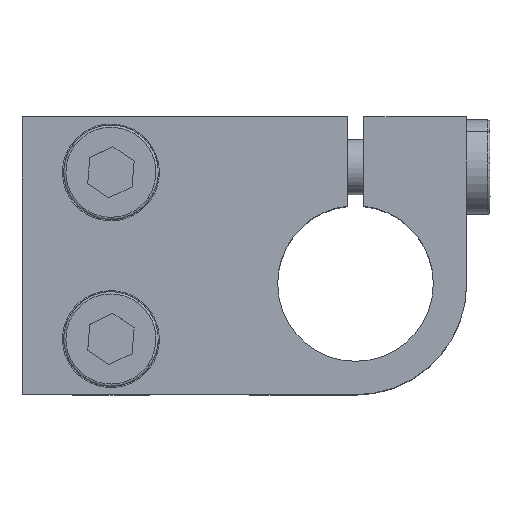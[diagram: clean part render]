
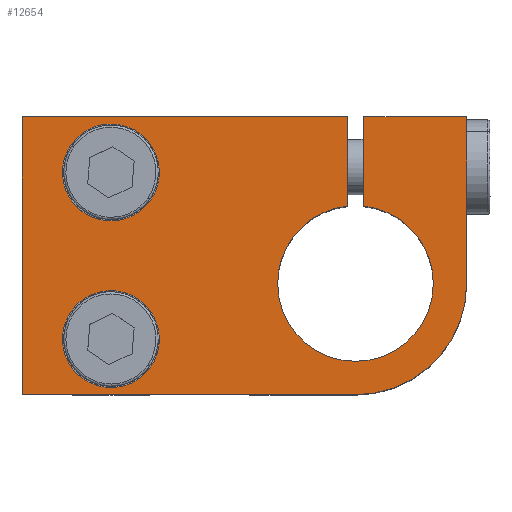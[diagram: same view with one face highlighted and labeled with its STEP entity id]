
A CAD part, top view. The second image highlights one B-rep face of the part: STEP entity #12654.
In plain terms, the highlighted planar face has unit normal (0, 0, 1).
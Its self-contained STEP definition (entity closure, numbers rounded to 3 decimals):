
#351 = LINE ( 'NONE', #10009, #10175 ) ;
#492 = EDGE_CURVE ( 'NONE', #919, #34510, #20712, .T. ) ;
#646 = CARTESIAN_POINT ( 'NONE',  ( -77.579, -3.016, 46.994 ) ) ;
#682 = AXIS2_PLACEMENT_3D ( 'NONE', #13100, #18945, #10601 ) ;
#744 = VERTEX_POINT ( 'NONE', #34767 ) ;
#919 = VERTEX_POINT ( 'NONE', #14185 ) ;
#1052 = VERTEX_POINT ( 'NONE', #32638 ) ;
#1190 = CIRCLE ( 'NONE', #24034, 7. ) ;
#1258 = ORIENTED_EDGE ( 'NONE', *, *, #16821, .T. ) ;
#1703 = CARTESIAN_POINT ( 'NONE',  ( -97.579, 9.484, 46.994 ) ) ;
#1798 = EDGE_CURVE ( 'NONE', #6819, #744, #16818, .T. ) ;
#1969 = CARTESIAN_POINT ( 'NONE',  ( -60.579, 6.984, 46.994 ) ) ;
#2868 = DIRECTION ( 'NONE',  ( 0., 0., 1. ) ) ;
#2966 = ORIENTED_EDGE ( 'NONE', *, *, #33648, .T. ) ;
#3001 = CARTESIAN_POINT ( 'NONE',  ( -67.579, 6.984, 46.994 ) ) ;
#3142 = DIRECTION ( 'NONE',  ( 1., 0., 0. ) ) ;
#4190 = ORIENTED_EDGE ( 'NONE', *, *, #15741, .T. ) ;
#5249 = VERTEX_POINT ( 'NONE', #28154 ) ;
#5475 = DIRECTION ( 'NONE',  ( -1., 0., 0. ) ) ;
#5556 = ORIENTED_EDGE ( 'NONE', *, *, #29525, .F. ) ;
#6819 = VERTEX_POINT ( 'NONE', #24467 ) ;
#7014 = DIRECTION ( 'NONE',  ( 0., 1., 0. ) ) ;
#7042 = VECTOR ( 'NONE', #3142, 1000. ) ;
#7481 = EDGE_CURVE ( 'NONE', #34938, #24320, #14147, .T. ) ;
#7632 = FACE_BOUND ( 'NONE', #17199, .T. ) ;
#8364 = CARTESIAN_POINT ( 'NONE',  ( -67.579, -3.016, 46.994 ) ) ;
#9433 = CARTESIAN_POINT ( 'NONE',  ( -86.979, 16.984, 46.994 ) ) ;
#9928 = DIRECTION ( 'NONE',  ( -1., 0., 0. ) ) ;
#9937 = VERTEX_POINT ( 'NONE', #1969 ) ;
#10009 = CARTESIAN_POINT ( 'NONE',  ( -68.329, 9.484, 46.994 ) ) ;
#10016 = DIRECTION ( 'NONE',  ( 0., 1., 0. ) ) ;
#10077 = DIRECTION ( 'NONE',  ( -1., 0., 0. ) ) ;
#10096 = CARTESIAN_POINT ( 'NONE',  ( -92.179, 16.984, 46.994 ) ) ;
#10175 = VECTOR ( 'NONE', #7014, 1000. ) ;
#10226 = EDGE_CURVE ( 'NONE', #34607, #16240, #28595, .T. ) ;
#10581 = AXIS2_PLACEMENT_3D ( 'NONE', #25633, #25153, #14542 ) ;
#10601 = DIRECTION ( 'NONE',  ( -1., 0., 0. ) ) ;
#11115 = EDGE_CURVE ( 'NONE', #19821, #31608, #351, .T. ) ;
#11277 = VECTOR ( 'NONE', #10016, 1000. ) ;
#11416 = CIRCLE ( 'NONE', #19862, 7. ) ;
#11725 = CARTESIAN_POINT ( 'NONE',  ( -66.829, 13.944, 46.994 ) ) ;
#12313 = ORIENTED_EDGE ( 'NONE', *, *, #31725, .T. ) ;
#12537 = EDGE_CURVE ( 'NONE', #34166, #20971, #29739, .T. ) ;
#12654 = ADVANCED_FACE ( 'NONE', ( #29710, #7632, #33999 ), #22263, .T. ) ;
#12780 = EDGE_CURVE ( 'NONE', #24320, #9937, #1190, .T. ) ;
#12966 = CARTESIAN_POINT ( 'NONE',  ( -77.579, 21.984, 46.994 ) ) ;
#13051 = AXIS2_PLACEMENT_3D ( 'NONE', #16316, #2868, #24551 ) ;
#13070 = CIRCLE ( 'NONE', #17065, 10. ) ;
#13100 = CARTESIAN_POINT ( 'NONE',  ( -89.579, 1.984, 46.994 ) ) ;
#13367 = LINE ( 'NONE', #1703, #25768 ) ;
#13713 = EDGE_LOOP ( 'NONE', ( #30377, #2966, #12313, #33708, #27053, #1258, #14134, #15860, #14904, #4190, #16810 ) ) ;
#13736 = CARTESIAN_POINT ( 'NONE',  ( -86.979, 1.984, 46.994 ) ) ;
#13956 = AXIS2_PLACEMENT_3D ( 'NONE', #24670, #29868, #27377 ) ;
#14134 = ORIENTED_EDGE ( 'NONE', *, *, #492, .T. ) ;
#14147 = LINE ( 'NONE', #19895, #19306 ) ;
#14185 = CARTESIAN_POINT ( 'NONE',  ( -97.579, -3.016, 46.994 ) ) ;
#14381 = CARTESIAN_POINT ( 'NONE',  ( -67.579, 6.984, 46.994 ) ) ;
#14542 = DIRECTION ( 'NONE',  ( -1., 0., 0. ) ) ;
#14845 = CIRCLE ( 'NONE', #31076, 2.6 ) ;
#14904 = ORIENTED_EDGE ( 'NONE', *, *, #1798, .T. ) ;
#15277 = DIRECTION ( 'NONE',  ( 0., 0., -1. ) ) ;
#15741 = EDGE_CURVE ( 'NONE', #744, #34938, #19474, .T. ) ;
#15860 = ORIENTED_EDGE ( 'NONE', *, *, #18703, .T. ) ;
#16240 = VERTEX_POINT ( 'NONE', #10096 ) ;
#16316 = CARTESIAN_POINT ( 'NONE',  ( -97.579, -3.016, 46.994 ) ) ;
#16810 = ORIENTED_EDGE ( 'NONE', *, *, #7481, .T. ) ;
#16818 = LINE ( 'NONE', #34630, #11277 ) ;
#16821 = EDGE_CURVE ( 'NONE', #1052, #919, #13367, .T. ) ;
#17065 = AXIS2_PLACEMENT_3D ( 'NONE', #3001, #29890, #30222 ) ;
#17199 = EDGE_LOOP ( 'NONE', ( #24764, #5556 ) ) ;
#17301 = VECTOR ( 'NONE', #20079, 1000. ) ;
#17364 = VECTOR ( 'NONE', #5475, 1000. ) ;
#17391 = DIRECTION ( 'NONE',  ( 0., 0., -1. ) ) ;
#18703 = EDGE_CURVE ( 'NONE', #34510, #6819, #13070, .T. ) ;
#18945 = DIRECTION ( 'NONE',  ( 0., 0., 1. ) ) ;
#18946 = EDGE_LOOP ( 'NONE', ( #33792, #25718 ) ) ;
#19261 = CARTESIAN_POINT ( 'NONE',  ( -92.179, 1.984, 46.994 ) ) ;
#19306 = VECTOR ( 'NONE', #25581, 1000. ) ;
#19474 = LINE ( 'NONE', #12966, #17364 ) ;
#19821 = VERTEX_POINT ( 'NONE', #24366 ) ;
#19862 = AXIS2_PLACEMENT_3D ( 'NONE', #22867, #33638, #33881 ) ;
#19895 = CARTESIAN_POINT ( 'NONE',  ( -66.829, 9.484, 46.994 ) ) ;
#20079 = DIRECTION ( 'NONE',  ( -1., 0., 0. ) ) ;
#20093 = DIRECTION ( 'NONE',  ( 0., 0., 1. ) ) ;
#20712 = LINE ( 'NONE', #646, #7042 ) ;
#20971 = VERTEX_POINT ( 'NONE', #13736 ) ;
#22240 = CARTESIAN_POINT ( 'NONE',  ( -68.329, 21.984, 46.994 ) ) ;
#22263 = PLANE ( 'NONE',  #13051 ) ;
#22450 = CARTESIAN_POINT ( 'NONE',  ( -77.579, 21.984, 46.994 ) ) ;
#22867 = CARTESIAN_POINT ( 'NONE',  ( -67.579, 6.984, 46.994 ) ) ;
#24034 = AXIS2_PLACEMENT_3D ( 'NONE', #14381, #17391, #33417 ) ;
#24320 = VERTEX_POINT ( 'NONE', #11725 ) ;
#24366 = CARTESIAN_POINT ( 'NONE',  ( -68.329, 13.944, 46.994 ) ) ;
#24467 = CARTESIAN_POINT ( 'NONE',  ( -57.579, 6.984, 46.994 ) ) ;
#24551 = DIRECTION ( 'NONE',  ( 1., 0., 0. ) ) ;
#24670 = CARTESIAN_POINT ( 'NONE',  ( -67.579, 6.984, 46.994 ) ) ;
#24764 = ORIENTED_EDGE ( 'NONE', *, *, #12537, .F. ) ;
#25153 = DIRECTION ( 'NONE',  ( 0., 0., -1. ) ) ;
#25581 = DIRECTION ( 'NONE',  ( 0., -1., 0. ) ) ;
#25633 = CARTESIAN_POINT ( 'NONE',  ( -89.579, 16.984, 46.994 ) ) ;
#25718 = ORIENTED_EDGE ( 'NONE', *, *, #10226, .T. ) ;
#25768 = VECTOR ( 'NONE', #29205, 1000. ) ;
#26651 = CIRCLE ( 'NONE', #34474, 2.6 ) ;
#27053 = ORIENTED_EDGE ( 'NONE', *, *, #32132, .T. ) ;
#27054 = CIRCLE ( 'NONE', #13956, 7. ) ;
#27377 = DIRECTION ( 'NONE',  ( -1., 0., 0. ) ) ;
#28154 = CARTESIAN_POINT ( 'NONE',  ( -74.579, 6.984, 46.994 ) ) ;
#28369 = LINE ( 'NONE', #22450, #17301 ) ;
#28595 = CIRCLE ( 'NONE', #10581, 2.6 ) ;
#29205 = DIRECTION ( 'NONE',  ( 0., -1., 0. ) ) ;
#29525 = EDGE_CURVE ( 'NONE', #20971, #34166, #14845, .T. ) ;
#29710 = FACE_BOUND ( 'NONE', #18946, .T. ) ;
#29739 = CIRCLE ( 'NONE', #682, 2.6 ) ;
#29868 = DIRECTION ( 'NONE',  ( 0., 0., -1. ) ) ;
#29890 = DIRECTION ( 'NONE',  ( 0., 0., 1. ) ) ;
#30222 = DIRECTION ( 'NONE',  ( -1., 0., 0. ) ) ;
#30377 = ORIENTED_EDGE ( 'NONE', *, *, #12780, .T. ) ;
#30879 = CARTESIAN_POINT ( 'NONE',  ( -89.579, 1.984, 46.994 ) ) ;
#31076 = AXIS2_PLACEMENT_3D ( 'NONE', #30879, #20093, #10077 ) ;
#31562 = CARTESIAN_POINT ( 'NONE',  ( -89.579, 16.984, 46.994 ) ) ;
#31608 = VERTEX_POINT ( 'NONE', #22240 ) ;
#31725 = EDGE_CURVE ( 'NONE', #5249, #19821, #11416, .T. ) ;
#32031 = CARTESIAN_POINT ( 'NONE',  ( -66.829, 21.984, 46.994 ) ) ;
#32132 = EDGE_CURVE ( 'NONE', #31608, #1052, #28369, .T. ) ;
#32638 = CARTESIAN_POINT ( 'NONE',  ( -97.579, 21.984, 46.994 ) ) ;
#33373 = EDGE_CURVE ( 'NONE', #16240, #34607, #26651, .T. ) ;
#33417 = DIRECTION ( 'NONE',  ( -1., 0., 0. ) ) ;
#33638 = DIRECTION ( 'NONE',  ( 0., 0., -1. ) ) ;
#33648 = EDGE_CURVE ( 'NONE', #9937, #5249, #27054, .T. ) ;
#33708 = ORIENTED_EDGE ( 'NONE', *, *, #11115, .T. ) ;
#33792 = ORIENTED_EDGE ( 'NONE', *, *, #33373, .T. ) ;
#33881 = DIRECTION ( 'NONE',  ( -1., 0., 0. ) ) ;
#33999 = FACE_OUTER_BOUND ( 'NONE', #13713, .T. ) ;
#34166 = VERTEX_POINT ( 'NONE', #19261 ) ;
#34474 = AXIS2_PLACEMENT_3D ( 'NONE', #31562, #15277, #9928 ) ;
#34510 = VERTEX_POINT ( 'NONE', #8364 ) ;
#34607 = VERTEX_POINT ( 'NONE', #9433 ) ;
#34630 = CARTESIAN_POINT ( 'NONE',  ( -57.579, 9.484, 46.994 ) ) ;
#34767 = CARTESIAN_POINT ( 'NONE',  ( -57.579, 21.984, 46.994 ) ) ;
#34938 = VERTEX_POINT ( 'NONE', #32031 ) ;
